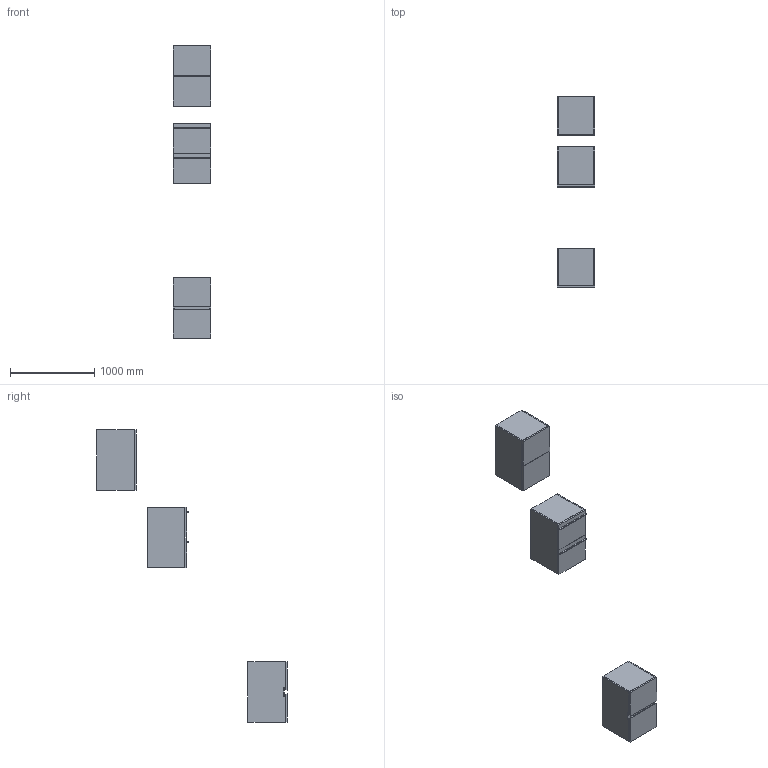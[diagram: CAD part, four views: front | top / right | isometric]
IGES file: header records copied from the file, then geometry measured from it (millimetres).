
Start section: Data from Parasolid IGES Translator 19.0.9, Copyright(c) 2006 Siemens PL M Software. All Rights Reserved.
Global section: file name: noorth-SI-H 72 D 47 W 45_8614.igs; native system: By Siemens PLM Incorporated; preprocessor: XPlus GENERIC/IGES 19.0.9; author: Noname; organization: Noname; date: 20200601.120526; units: metre
Bounding box: 450 x 2270 x 3480.01 mm (x, y, z)
Volume: 69720897.6 mm3; surface area: 10501815.3 mm2
Topology: 24 solids, 24 shells, 248 faces, 544 edges, 324 vertices
Faces by surface type: plane 164, extrusion 36, bspline 32, cylinder 16
